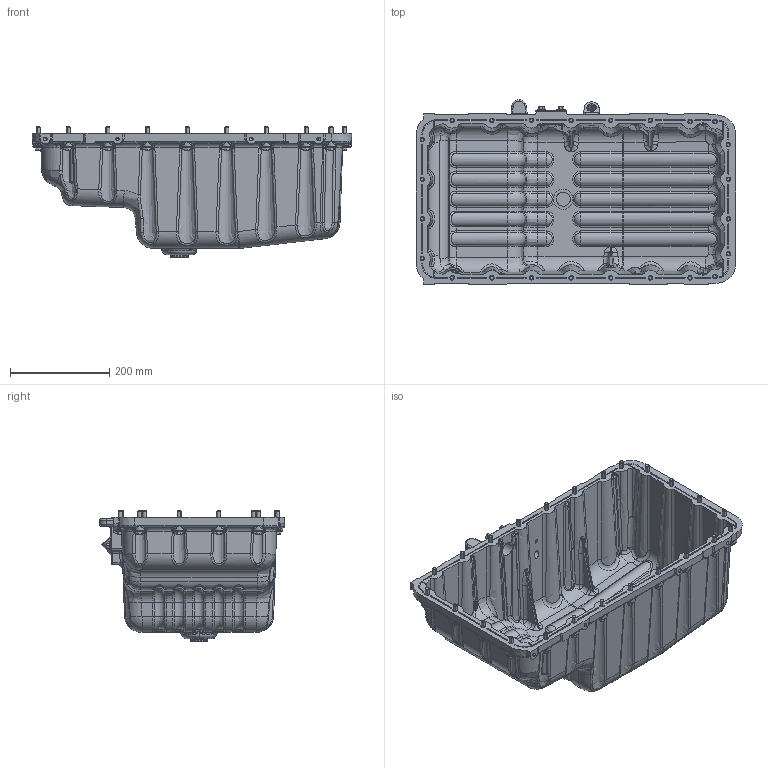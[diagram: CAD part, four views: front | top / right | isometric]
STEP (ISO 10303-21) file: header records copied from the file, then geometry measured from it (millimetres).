
FILE_DESCRIPTION(('CATIA V6 STEP','CAx-IF Rec.Pracs.--- Model Styling and Organization---1.5--- 2016-08-15','CAx-IF Rec.Pracs.---Supplemental Geometry---1.0---2011-11-01','CAx-IF Rec.Pracs.--- Composite Materials ---1.1---2010-07-15'),'2;1');
FILE_NAME('\\?\D:\OneDrive - HD Hyundai\D드라이브\도면 Temp\EDX05_21L_Oilpan.stp','2025-10-23T00:04:00+00:00',('none'),('none'),'3DEXPERIENCE Platform3DEXPERIENCE R2021x HotFix 10','3DEXPERIENCE Platform STEP AP214 v2','none');
FILE_SCHEMA(('AUTOMOTIVE_DESIGN { 1 0 10303 214 1 1 1 1 }'));
Products named in the file (6): EDX05; _1; 65.91605-0012 COVER 00; 06.56190-0732 SEALRING 00; 65.90310-0144 SCREW,PLUG 00
Assembly tree (36 placements, depth 5):
  EDX05
    (unnamed)
      _1
        #60
          #73  x24
          65.91605-0012 COVER 00
          #99  x4
          #112
          06.56190-0732 SEALRING 00
          65.90310-0144 SCREW,PLUG 00
          #151
Bounding box: 644.7 x 372.5 x 263 mm (x, y, z)
Volume: 3988710.8 mm3; surface area: 1222224.6 mm2
Topology: 34 solids, 34 shells, 3219 faces, 7844 edges, 4613 vertices
Faces by surface type: bspline 961, cylinder 690, cone 615, plane 491, torus 342, sphere 120
Entity records: 144653 total; most frequent: CARTESIAN_POINT 100672, ORIENTED_EDGE 11308, EDGE_CURVE 5654, DIRECTION 4654, VERTEX_POINT 3345, B_SPLINE_CURVE_WITH_KNOTS 3115, AXIS2_PLACEMENT_3D 2494, EDGE_LOOP 2473
